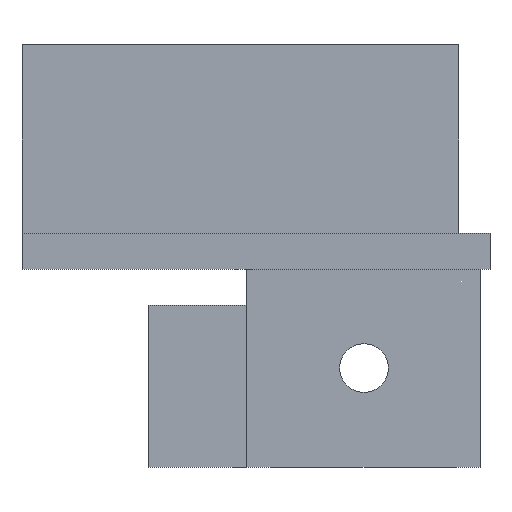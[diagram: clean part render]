
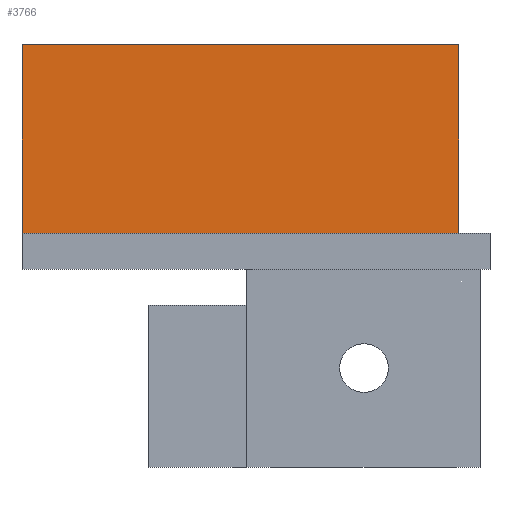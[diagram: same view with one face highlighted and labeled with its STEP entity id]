
A CAD part, front view. The second image highlights one B-rep face of the part: STEP entity #3766.
In plain terms, the highlighted planar face has unit normal (0, -1, 0).
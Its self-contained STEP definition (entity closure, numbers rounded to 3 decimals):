
#1601 = PLANE('',#1602);
#1602 = AXIS2_PLACEMENT_3D('',#1603,#1604,#1605);
#1603 = CARTESIAN_POINT('',(-38.,-15.5,0.));
#1604 = DIRECTION('',(1.,0.,0.));
#1605 = DIRECTION('',(0.,0.,1.));
#1783 = PLANE('',#1784);
#1784 = AXIS2_PLACEMENT_3D('',#1785,#1786,#1787);
#1785 = CARTESIAN_POINT('',(-38.,-15.5,4.));
#1786 = DIRECTION('',(0.,0.,1.));
#1787 = DIRECTION('',(1.,0.,0.));
#1801 = VERTEX_POINT('',#1802);
#1802 = CARTESIAN_POINT('',(-38.,-15.2,4.));
#1918 = VERTEX_POINT('',#1919);
#1919 = CARTESIAN_POINT('',(10.5,-15.2,4.));
#1932 = PLANE('',#1933);
#1933 = AXIS2_PLACEMENT_3D('',#1934,#1935,#1936);
#1934 = CARTESIAN_POINT('',(10.5,15.2,1.2));
#1935 = DIRECTION('',(-1.,0.,0.));
#1936 = DIRECTION('',(0.,0.,1.));
#1943 = EDGE_CURVE('',#1801,#1918,#1944,.T.);
#1944 = SURFACE_CURVE('',#1945,(#1949,#1955),.PCURVE_S1.);
#1945 = LINE('',#1946,#1947);
#1946 = CARTESIAN_POINT('',(-13.75,-15.2,4.));
#1947 = VECTOR('',#1948,1.);
#1948 = DIRECTION('',(1.,0.,-0.));
#1949 = PCURVE('',#1783,#1950);
#1950 = DEFINITIONAL_REPRESENTATION('',(#1951),#1954);
#1951 = B_SPLINE_CURVE_WITH_KNOTS('',1,(#1952,#1953),.UNSPECIFIED.,.F.,
  .F.,(2,2),(-24.25,24.25),.PIECEWISE_BEZIER_KNOTS.);
#1952 = CARTESIAN_POINT('',(0.,0.3));
#1953 = CARTESIAN_POINT('',(48.5,0.3));
#1954 = ( GEOMETRIC_REPRESENTATION_CONTEXT(2) 
PARAMETRIC_REPRESENTATION_CONTEXT() REPRESENTATION_CONTEXT('2D SPACE',''
  ) );
#1955 = PCURVE('',#1956,#1961);
#1956 = PLANE('',#1957);
#1957 = AXIS2_PLACEMENT_3D('',#1958,#1959,#1960);
#1958 = CARTESIAN_POINT('',(10.5,-15.2,1.2));
#1959 = DIRECTION('',(0.,-1.,0.));
#1960 = DIRECTION('',(0.,0.,1.));
#1961 = DEFINITIONAL_REPRESENTATION('',(#1962),#1965);
#1962 = B_SPLINE_CURVE_WITH_KNOTS('',1,(#1963,#1964),.UNSPECIFIED.,.F.,
  .F.,(2,2),(-24.25,24.25),.PIECEWISE_BEZIER_KNOTS.);
#1963 = CARTESIAN_POINT('',(2.8,48.5));
#1964 = CARTESIAN_POINT('',(2.8,0.));
#1965 = ( GEOMETRIC_REPRESENTATION_CONTEXT(2) 
PARAMETRIC_REPRESENTATION_CONTEXT() REPRESENTATION_CONTEXT('2D SPACE',''
  ) );
#2370 = PLANE('',#2371);
#2371 = AXIS2_PLACEMENT_3D('',#2372,#2373,#2374);
#2372 = CARTESIAN_POINT('',(10.5,15.2,24.9));
#2373 = DIRECTION('',(0.,0.,1.));
#2374 = DIRECTION('',(-1.,0.,0.));
#2409 = VERTEX_POINT('',#2410);
#2410 = CARTESIAN_POINT('',(10.5,-15.2,24.9));
#2482 = VERTEX_POINT('',#2483);
#2483 = CARTESIAN_POINT('',(-38.,-15.2,24.9));
#2504 = EDGE_CURVE('',#2409,#2482,#2505,.T.);
#2505 = SURFACE_CURVE('',#2506,(#2510,#2517),.PCURVE_S1.);
#2506 = LINE('',#2507,#2508);
#2507 = CARTESIAN_POINT('',(10.5,-15.2,24.9));
#2508 = VECTOR('',#2509,1.);
#2509 = DIRECTION('',(-1.,0.,0.));
#2510 = PCURVE('',#2370,#2511);
#2511 = DEFINITIONAL_REPRESENTATION('',(#2512),#2516);
#2512 = LINE('',#2513,#2514);
#2513 = CARTESIAN_POINT('',(0.,30.4));
#2514 = VECTOR('',#2515,1.);
#2515 = DIRECTION('',(1.,0.));
#2516 = ( GEOMETRIC_REPRESENTATION_CONTEXT(2) 
PARAMETRIC_REPRESENTATION_CONTEXT() REPRESENTATION_CONTEXT('2D SPACE',''
  ) );
#2517 = PCURVE('',#1956,#2518);
#2518 = DEFINITIONAL_REPRESENTATION('',(#2519),#2523);
#2519 = LINE('',#2520,#2521);
#2520 = CARTESIAN_POINT('',(23.7,0.));
#2521 = VECTOR('',#2522,1.);
#2522 = DIRECTION('',(0.,1.));
#2523 = ( GEOMETRIC_REPRESENTATION_CONTEXT(2) 
PARAMETRIC_REPRESENTATION_CONTEXT() REPRESENTATION_CONTEXT('2D SPACE',''
  ) );
#3742 = EDGE_CURVE('',#1918,#2409,#3743,.T.);
#3743 = SURFACE_CURVE('',#3744,(#3748,#3755),.PCURVE_S1.);
#3744 = LINE('',#3745,#3746);
#3745 = CARTESIAN_POINT('',(10.5,-15.2,1.2));
#3746 = VECTOR('',#3747,1.);
#3747 = DIRECTION('',(0.,0.,1.));
#3748 = PCURVE('',#1932,#3749);
#3749 = DEFINITIONAL_REPRESENTATION('',(#3750),#3754);
#3750 = LINE('',#3751,#3752);
#3751 = CARTESIAN_POINT('',(0.,-30.4));
#3752 = VECTOR('',#3753,1.);
#3753 = DIRECTION('',(1.,0.));
#3754 = ( GEOMETRIC_REPRESENTATION_CONTEXT(2) 
PARAMETRIC_REPRESENTATION_CONTEXT() REPRESENTATION_CONTEXT('2D SPACE',''
  ) );
#3755 = PCURVE('',#1956,#3756);
#3756 = DEFINITIONAL_REPRESENTATION('',(#3757),#3761);
#3757 = LINE('',#3758,#3759);
#3758 = CARTESIAN_POINT('',(0.,0.));
#3759 = VECTOR('',#3760,1.);
#3760 = DIRECTION('',(1.,0.));
#3761 = ( GEOMETRIC_REPRESENTATION_CONTEXT(2) 
PARAMETRIC_REPRESENTATION_CONTEXT() REPRESENTATION_CONTEXT('2D SPACE',''
  ) );
#3766 = ADVANCED_FACE('',(#3767),#1956,.T.);
#3767 = FACE_BOUND('',#3768,.T.);
#3768 = EDGE_LOOP('',(#3769,#3790,#3791,#3792));
#3769 = ORIENTED_EDGE('',*,*,#3770,.F.);
#3770 = EDGE_CURVE('',#1801,#2482,#3771,.T.);
#3771 = SURFACE_CURVE('',#3772,(#3776,#3783),.PCURVE_S1.);
#3772 = LINE('',#3773,#3774);
#3773 = CARTESIAN_POINT('',(-38.,-15.2,1.2));
#3774 = VECTOR('',#3775,1.);
#3775 = DIRECTION('',(0.,0.,1.));
#3776 = PCURVE('',#1956,#3777);
#3777 = DEFINITIONAL_REPRESENTATION('',(#3778),#3782);
#3778 = LINE('',#3779,#3780);
#3779 = CARTESIAN_POINT('',(0.,48.5));
#3780 = VECTOR('',#3781,1.);
#3781 = DIRECTION('',(1.,0.));
#3782 = ( GEOMETRIC_REPRESENTATION_CONTEXT(2) 
PARAMETRIC_REPRESENTATION_CONTEXT() REPRESENTATION_CONTEXT('2D SPACE',''
  ) );
#3783 = PCURVE('',#1601,#3784);
#3784 = DEFINITIONAL_REPRESENTATION('',(#3785),#3789);
#3785 = LINE('',#3786,#3787);
#3786 = CARTESIAN_POINT('',(1.2,-0.3));
#3787 = VECTOR('',#3788,1.);
#3788 = DIRECTION('',(1.,0.));
#3789 = ( GEOMETRIC_REPRESENTATION_CONTEXT(2) 
PARAMETRIC_REPRESENTATION_CONTEXT() REPRESENTATION_CONTEXT('2D SPACE',''
  ) );
#3790 = ORIENTED_EDGE('',*,*,#1943,.T.);
#3791 = ORIENTED_EDGE('',*,*,#3742,.T.);
#3792 = ORIENTED_EDGE('',*,*,#2504,.T.);
